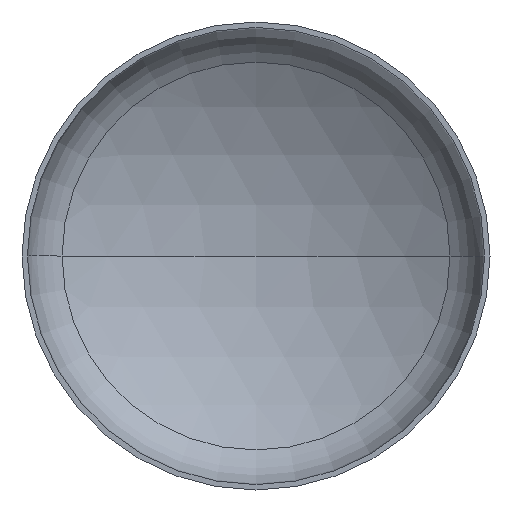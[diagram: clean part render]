
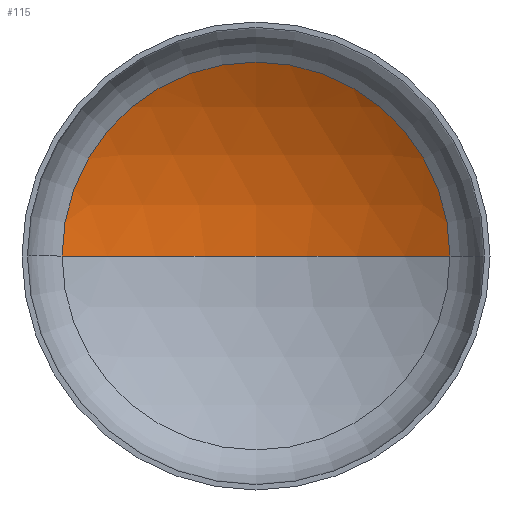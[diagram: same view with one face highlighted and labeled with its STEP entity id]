
A CAD part, front view. The second image highlights one B-rep face of the part: STEP entity #115.
In plain terms, the highlighted spherical face has radius 480 mm.
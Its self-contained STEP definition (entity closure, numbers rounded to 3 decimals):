
#8 = CIRCLE ( 'NONE', #17, 248.66 ) ;
#15 = AXIS2_PLACEMENT_3D ( 'NONE', #126, #326, #155 ) ;
#17 = AXIS2_PLACEMENT_3D ( 'NONE', #236, #55, #264 ) ;
#18 = ORIENTED_EDGE ( 'NONE', *, *, #321, .T. ) ;
#39 = VERTEX_POINT ( 'NONE', #172 ) ;
#41 = AXIS2_PLACEMENT_3D ( 'NONE', #401, #178, #230 ) ;
#55 = DIRECTION ( 'NONE',  ( 0., -1., 0. ) ) ;
#100 = DIRECTION ( 'NONE',  ( 0., 0., 1. ) ) ;
#115 = ADVANCED_FACE ( 'NONE', ( #222 ), #151, .F. ) ;
#118 = CIRCLE ( 'NONE', #15, 480. ) ;
#126 = CARTESIAN_POINT ( 'NONE',  ( 0., -306.878, 0. ) ) ;
#140 = VERTEX_POINT ( 'NONE', #283 ) ;
#151 = SPHERICAL_SURFACE ( 'NONE', #41, 480. ) ;
#155 = DIRECTION ( 'NONE',  ( -1., 0., 0. ) ) ;
#172 = CARTESIAN_POINT ( 'NONE',  ( 248.66, 103.693, 0. ) ) ;
#178 = DIRECTION ( 'NONE',  ( 0., 0., -1. ) ) ;
#201 = VERTEX_POINT ( 'NONE', #349 ) ;
#222 = FACE_OUTER_BOUND ( 'NONE', #252, .T. ) ;
#223 = ORIENTED_EDGE ( 'NONE', *, *, #327, .T. ) ;
#230 = DIRECTION ( 'NONE',  ( -1., 0., 0. ) ) ;
#236 = CARTESIAN_POINT ( 'NONE',  ( 0., 103.693, 0. ) ) ;
#252 = EDGE_LOOP ( 'NONE', ( #306, #223, #18 ) ) ;
#264 = DIRECTION ( 'NONE',  ( 1., 0., 0. ) ) ;
#268 = CARTESIAN_POINT ( 'NONE',  ( 0., -306.878, 0. ) ) ;
#283 = CARTESIAN_POINT ( 'NONE',  ( 0., 173.122, 0. ) ) ;
#294 = DIRECTION ( 'NONE',  ( 1., 0., 0. ) ) ;
#306 = ORIENTED_EDGE ( 'NONE', *, *, #367, .F. ) ;
#321 = EDGE_CURVE ( 'NONE', #39, #201, #8, .T. ) ;
#326 = DIRECTION ( 'NONE',  ( 0., 0., -1. ) ) ;
#327 = EDGE_CURVE ( 'NONE', #140, #39, #118, .T. ) ;
#330 = CIRCLE ( 'NONE', #373, 480. ) ;
#349 = CARTESIAN_POINT ( 'NONE',  ( -248.66, 103.693, 0. ) ) ;
#367 = EDGE_CURVE ( 'NONE', #140, #201, #330, .T. ) ;
#373 = AXIS2_PLACEMENT_3D ( 'NONE', #268, #100, #294 ) ;
#401 = CARTESIAN_POINT ( 'NONE',  ( 0., -306.878, 0. ) ) ;
